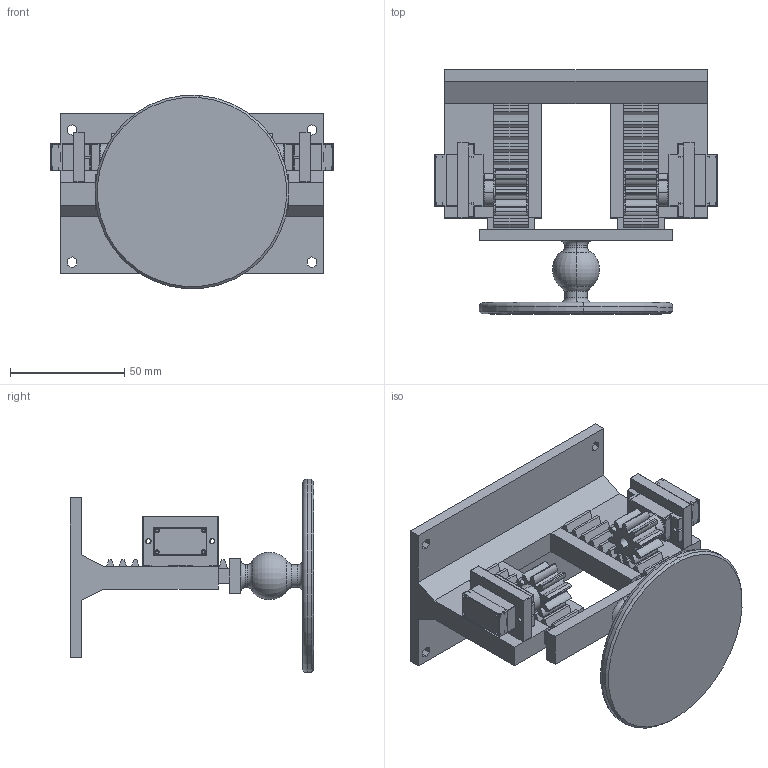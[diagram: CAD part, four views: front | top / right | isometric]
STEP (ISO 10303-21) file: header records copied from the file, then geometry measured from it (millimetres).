
FILE_DESCRIPTION (( 'STEP AP214' ), '1' );
FILE_NAME ('Cleaning Mech Assembly.STEP', '2026-10-24T22:05:56', ( '' ), ( '' ), 'SwSTEP 2.0', 'SolidWorks 2025', '' );
FILE_SCHEMA (( 'AUTOMOTIVE_DESIGN' ));
Length unit declared in the file: millimetre
Products named in the file (12): Part3 Bottom Cover; Slider 1.75; Servo Motor ISDC; Mounting plate; Part5 Top Cover; Gear; socket; Brush and Ball; Part4 Middle Cover; Cleaning Mech Assembly; Servo mount; Slider gear 1.75
Assembly tree (15 placements, depth 3):
  Cleaning Mech Assembly
    Mounting plate
    Servo mount  x2
    Servo Motor ISDC  x2
      Part4 Middle Cover
      Part3 Bottom Cover
      Part5 Top Cover
      Gear
    Slider gear 1.75  x2
    Slider 1.75  x2
    socket
    Brush and Ball
Bounding box: 124 x 106.95 x 84.76 mm (x, y, z)
Volume: 156838.8 mm3; surface area: 80763.4 mm2
Topology: 19 solids, 19 shells, 2124 faces, 5455 edges, 3360 vertices
Faces by surface type: cylinder 956, plane 944, torus 88, bspline 76, sphere 58, cone 2
Entity records: 39756 total; most frequent: CARTESIAN_POINT 12583, ORIENTED_EDGE 5654, DIRECTION 5631, EDGE_CURVE 2827, AXIS2_PLACEMENT_3D 1971, VERTEX_POINT 1767, VECTOR 1689, LINE 1689
